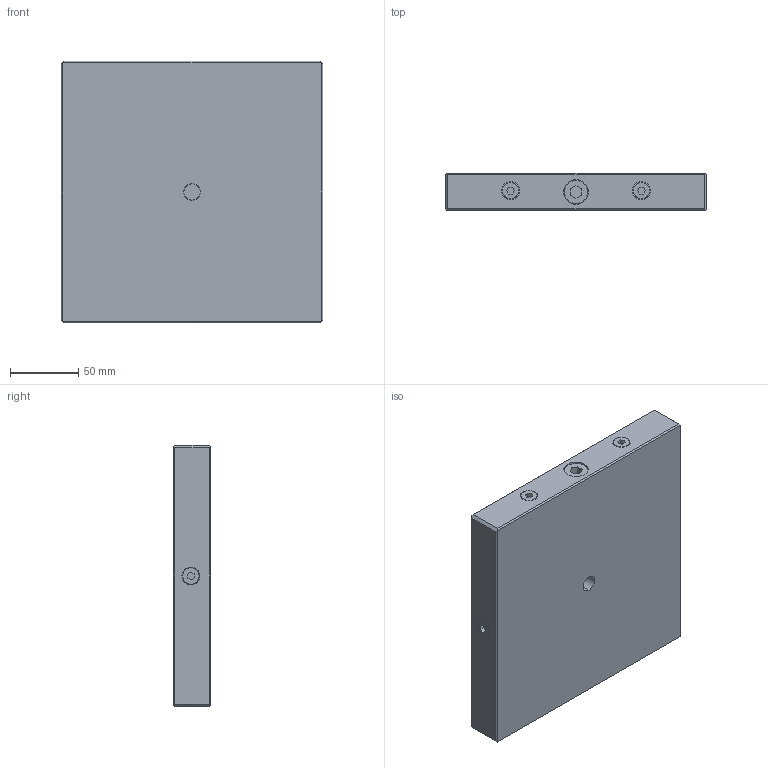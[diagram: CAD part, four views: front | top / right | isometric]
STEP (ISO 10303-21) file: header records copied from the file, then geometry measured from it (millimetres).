
FILE_DESCRIPTION (( 'STEP AP203' ), '1' );
FILE_NAME ('45710.STEP', '2015-03-05T12:12:14', ( '' ), ( '' ), 'SwSTEP 2.0', 'SolidWorks 2011', '' );
FILE_SCHEMA (( 'CONFIG_CONTROL_DESIGN' ));
Length unit declared in the file: millimetre
Products named in the file (1): 45710
Bounding box: 192 x 27 x 192 mm (x, y, z)
Volume: 903346.7 mm3; surface area: 124370.1 mm2
Topology: 8 solids, 8 shells, 185 faces, 444 edges, 275 vertices
Faces by surface type: plane 89, cylinder 60, cone 28, torus 8
Entity records: 6143 total; most frequent: CARTESIAN_POINT 1791, ORIENTED_EDGE 888, DIRECTION 874, EDGE_CURVE 444, AXIS2_PLACEMENT_3D 306, VERTEX_POINT 275, LINE 262, VECTOR 262
